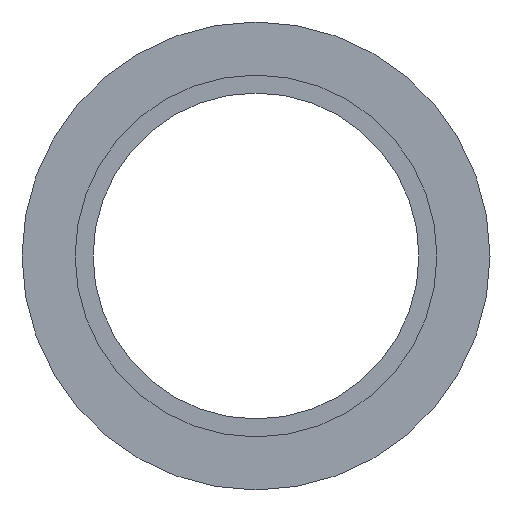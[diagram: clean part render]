
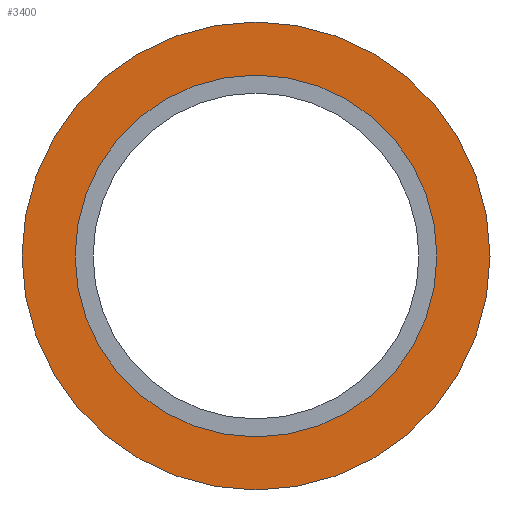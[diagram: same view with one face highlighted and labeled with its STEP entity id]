
A CAD part, left-side view. The second image highlights one B-rep face of the part: STEP entity #3400.
In plain terms, the highlighted planar face has unit normal (-1, 0, 0) as drawn and (1, 0, 0) by its records, which use the part's own axes.
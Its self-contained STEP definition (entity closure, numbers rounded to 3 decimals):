
#1490=CARTESIAN_POINT('',(165.253,24.567,0.)
);
#1500=VERTEX_POINT('',#1490);
#1550=CARTESIAN_POINT('',(165.253,52.567,0.))
;
#1560=DIRECTION('',(1.,0.,-0.));
#1570=DIRECTION('',(0.,1.,0.));
#1580=AXIS2_PLACEMENT_3D('',#1550,#1560,#1570);
#1590=CIRCLE('',#1580,28.);
#1600=CARTESIAN_POINT('',(165.253,80.567,0.))
;
#1610=VERTEX_POINT('',#1600);
#1620=EDGE_CURVE('',#1500,#1610,#1590,.T.);
#3150=CARTESIAN_POINT('',(165.253,78.992,0.));
#3160=DIRECTION('',(1.,0.,0.));
#3170=DIRECTION('',(0.,1.,0.));
#3180=AXIS2_PLACEMENT_3D('',#3150,#3160,#3170);
#3190=PLANE('',#3180);
#3200=EDGE_CURVE('',#1610,#1500,#1590,.T.);
#3210=ORIENTED_EDGE('',*,*,#3200,.T.);
#3220=ORIENTED_EDGE('',*,*,#1620,.T.);
#3230=EDGE_LOOP('',(#3220,#3210));
#3240=FACE_OUTER_BOUND('',#3230,.T.);
#3250=CARTESIAN_POINT('',(165.253,52.567,0.)
);
#3260=DIRECTION('',(-1.,-0.,0.));
#3270=DIRECTION('',(0.,-1.,0.));
#3280=AXIS2_PLACEMENT_3D('',#3250,#3260,#3270);
#3290=CIRCLE('',#3280,21.65);
#3300=CARTESIAN_POINT('',(165.253,74.217,0.)
);
#3310=VERTEX_POINT('',#3300);
#3320=CARTESIAN_POINT('',(165.253,30.917,0.))
;
#3330=VERTEX_POINT('',#3320);
#3340=EDGE_CURVE('',#3310,#3330,#3290,.T.);
#3350=ORIENTED_EDGE('',*,*,#3340,.T.);
#3360=EDGE_CURVE('',#3330,#3310,#3290,.T.);
#3370=ORIENTED_EDGE('',*,*,#3360,.T.);
#3380=EDGE_LOOP('',(#3370,#3350));
#3390=FACE_BOUND('',#3380,.T.);
#3400=ADVANCED_FACE('',(#3240,#3390),#3190,.T.);
